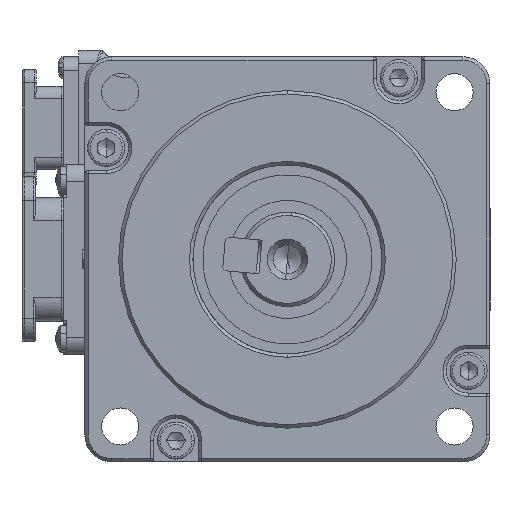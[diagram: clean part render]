
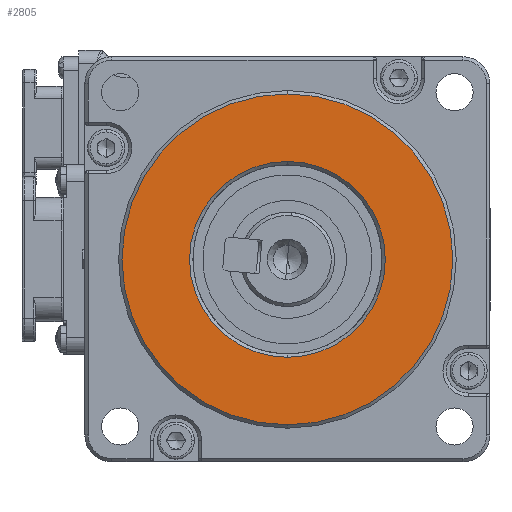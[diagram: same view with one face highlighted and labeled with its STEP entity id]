
A CAD part, left-side view. The second image highlights one B-rep face of the part: STEP entity #2805.
In plain terms, the highlighted planar face has unit normal (-1, 0, 0).
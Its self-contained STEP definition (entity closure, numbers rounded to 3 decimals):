
#1058 = CARTESIAN_POINT ( 'NONE',  ( -55.695, -16.292, 137.385 ) ) ;
#2155 = ORIENTED_EDGE ( 'NONE', *, *, #101082, .T. ) ;
#2805 = ADVANCED_FACE ( 'NONE', ( #66603, #31021 ), #143157, .F. ) ;
#3080 = CARTESIAN_POINT ( 'NONE',  ( -55.695, -16.292, 151.885 ) ) ;
#9572 = EDGE_LOOP ( 'NONE', ( #61315, #2155 ) ) ;
#17999 = CARTESIAN_POINT ( 'NONE',  ( -55.695, -16.292, 137.385 ) ) ;
#18905 = AXIS2_PLACEMENT_3D ( 'NONE', #157197, #63182, #22825 ) ;
#22825 = DIRECTION ( 'NONE',  ( 0., 0., -1. ) ) ;
#25474 = CARTESIAN_POINT ( 'NONE',  ( -55.695, -16.292, 137.385 ) ) ;
#28482 = CARTESIAN_POINT ( 'NONE',  ( -55.695, -16.292, 137.385 ) ) ;
#28698 = CIRCLE ( 'NONE', #158130, 14.5 ) ;
#31021 = FACE_OUTER_BOUND ( 'NONE', #9572, .T. ) ;
#43608 = AXIS2_PLACEMENT_3D ( 'NONE', #25474, #77505, #105557 ) ;
#56649 = EDGE_CURVE ( 'NONE', #146618, #95437, #28698, .T. ) ;
#58464 = CARTESIAN_POINT ( 'NONE',  ( -55.695, -16.292, 112.885 ) ) ;
#61315 = ORIENTED_EDGE ( 'NONE', *, *, #89040, .T. ) ;
#63182 = DIRECTION ( 'NONE',  ( 1., 0., 0. ) ) ;
#64092 = CIRCLE ( 'NONE', #43608, 24.5 ) ;
#66603 = FACE_BOUND ( 'NONE', #162748, .T. ) ;
#66954 = EDGE_CURVE ( 'NONE', #95437, #146618, #87414, .T. ) ;
#67222 = DIRECTION ( 'NONE',  ( -1., 0., 0. ) ) ;
#68829 = DIRECTION ( 'NONE',  ( 0., 0., -1. ) ) ;
#69020 = AXIS2_PLACEMENT_3D ( 'NONE', #17999, #72378, #111621 ) ;
#72378 = DIRECTION ( 'NONE',  ( 1., 0., 0. ) ) ;
#77505 = DIRECTION ( 'NONE',  ( -1., 0., 0. ) ) ;
#81125 = CARTESIAN_POINT ( 'NONE',  ( -55.695, -16.292, 122.885 ) ) ;
#85656 = CARTESIAN_POINT ( 'NONE',  ( -55.695, -16.292, 161.885 ) ) ;
#87414 = CIRCLE ( 'NONE', #69020, 14.5 ) ;
#89040 = EDGE_CURVE ( 'NONE', #151809, #157168, #64092, .T. ) ;
#95437 = VERTEX_POINT ( 'NONE', #81125 ) ;
#98595 = ORIENTED_EDGE ( 'NONE', *, *, #66954, .T. ) ;
#101082 = EDGE_CURVE ( 'NONE', #157168, #151809, #106263, .T. ) ;
#105557 = DIRECTION ( 'NONE',  ( 0., 0., -1. ) ) ;
#106263 = CIRCLE ( 'NONE', #146999, 24.5 ) ;
#111621 = DIRECTION ( 'NONE',  ( 0., 0., -1. ) ) ;
#113102 = ORIENTED_EDGE ( 'NONE', *, *, #56649, .T. ) ;
#143157 = PLANE ( 'NONE',  #18905 ) ;
#146591 = DIRECTION ( 'NONE',  ( 0., 0., -1. ) ) ;
#146618 = VERTEX_POINT ( 'NONE', #3080 ) ;
#146999 = AXIS2_PLACEMENT_3D ( 'NONE', #1058, #67222, #146591 ) ;
#147626 = DIRECTION ( 'NONE',  ( 1., 0., 0. ) ) ;
#151809 = VERTEX_POINT ( 'NONE', #58464 ) ;
#157168 = VERTEX_POINT ( 'NONE', #85656 ) ;
#157197 = CARTESIAN_POINT ( 'NONE',  ( -55.695, -16.292, 137.385 ) ) ;
#158130 = AXIS2_PLACEMENT_3D ( 'NONE', #28482, #147626, #68829 ) ;
#162748 = EDGE_LOOP ( 'NONE', ( #113102, #98595 ) ) ;
